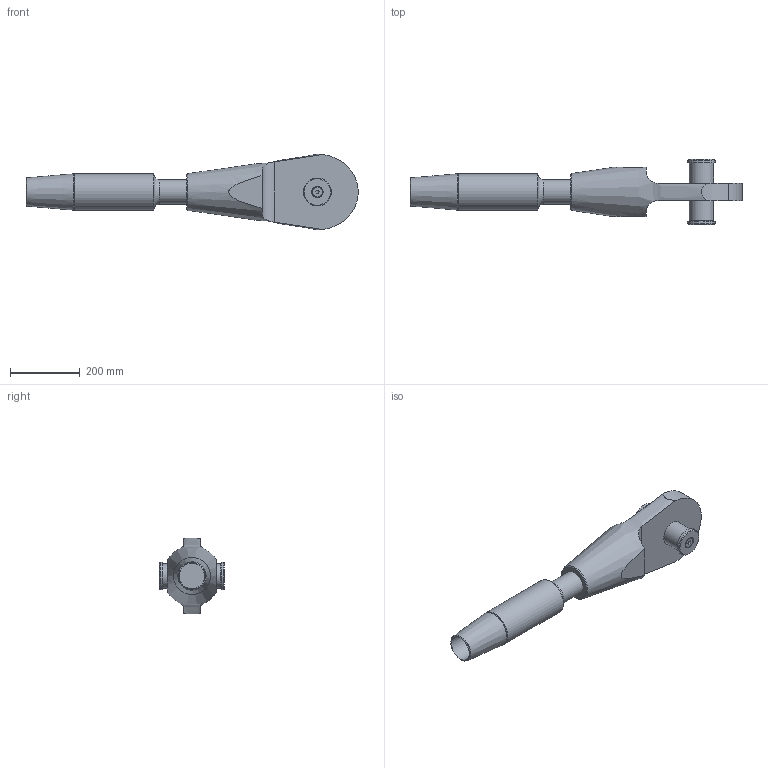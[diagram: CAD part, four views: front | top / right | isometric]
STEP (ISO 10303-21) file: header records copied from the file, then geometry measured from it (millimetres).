
FILE_DESCRIPTION(/* description */ (''),/* implementation_level */ '2;1');
FILE_NAME(/* name */ 'C:\Vault_WS\Designs\SB\01-PX\Verzinkt\ZSS\520 - Zusambau-OES-ADA\520-070-OES-ADA.stp',/* time_stamp */ '2020-10-07T15:42:29+02:00',/* author */ ('schwarz'),/* organization */ (''),/* preprocessor_version */ 'ST-DEVELOPER v18.1',/* originating_system */ 'Autodesk Inventor 2020',/* authorisation */ '');
FILE_SCHEMA (('AUTOMOTIVE_DESIGN { 1 0 10303 214 3 1 1 }'));
Length unit declared in the file: millimetre
Products named in the file (1): 520-070-OES-ADA-Kunde
Bounding box: 953.65 x 187.3 x 217.09 mm (x, y, z)
Volume: 9711651.1 mm3; surface area: 530810.5 mm2
Topology: 6 solids, 6 shells, 57 faces, 136 edges, 94 vertices
Faces by surface type: plane 26, cylinder 16, cone 13, torus 2
Full cylindrical faces by diameter (mm): 13.835 x1, 16 x1, 17.5 x1, 29.01 x1, 70 x2, 73 x2, 80 x2, 105 x1
Entity records: 1931 total; most frequent: CARTESIAN_POINT 450, DIRECTION 296, ORIENTED_EDGE 268, EDGE_CURVE 134, AXIS2_PLACEMENT_3D 126, VERTEX_POINT 94, CIRCLE 68, EDGE_LOOP 66
